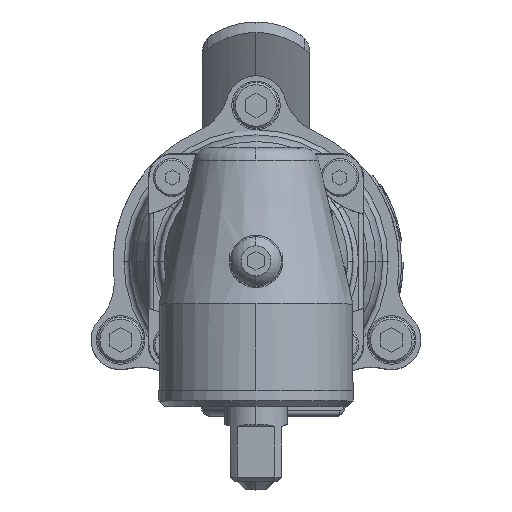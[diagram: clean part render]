
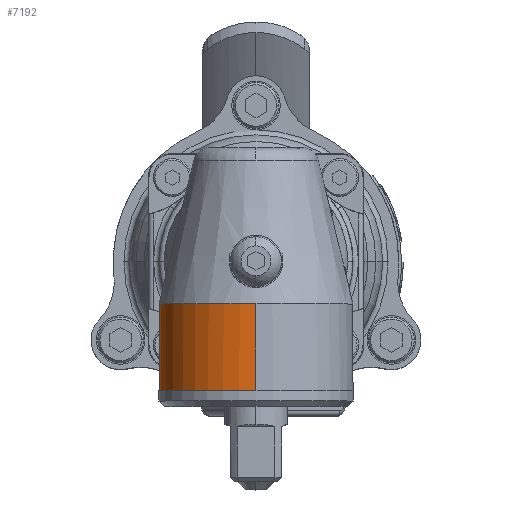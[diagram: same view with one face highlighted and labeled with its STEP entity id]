
A CAD part, top view. The second image highlights one B-rep face of the part: STEP entity #7192.
In plain terms, the highlighted cylindrical face has radius 18 mm (diameter 36 mm), a partial arc.
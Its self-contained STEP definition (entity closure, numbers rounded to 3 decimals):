
#7138 = EDGE_CURVE ( 'NONE', #7208, #7221, #22955, .T. ) ;
#7179 = ORIENTED_EDGE ( 'NONE', *, *, #7180, .T. ) ;
#7180 = EDGE_CURVE ( 'NONE', #7206, #7196, #23312, .T. ) ;
#7192 = ADVANCED_FACE ( 'NONE', ( #27833 ), #27888, .T. ) ;
#7193 = EDGE_LOOP ( 'NONE', ( #7194, #7197, #7198, #7201, #7204, #7179 ) ) ;
#7194 = ORIENTED_EDGE ( 'NONE', *, *, #7195, .T. ) ;
#7195 = EDGE_CURVE ( 'NONE', #7196, #7208, #27890, .T. ) ;
#7196 = VERTEX_POINT ( 'NONE', #27869 ) ;
#7197 = ORIENTED_EDGE ( 'NONE', *, *, #7138, .T. ) ;
#7198 = ORIENTED_EDGE ( 'NONE', *, *, #7199, .F. ) ;
#7199 = EDGE_CURVE ( 'NONE', #7200, #7221, #27864, .T. ) ;
#7200 = VERTEX_POINT ( 'NONE', #27856 ) ;
#7201 = ORIENTED_EDGE ( 'NONE', *, *, #7202, .T. ) ;
#7202 = EDGE_CURVE ( 'NONE', #7200, #7203, #27851, .T. ) ;
#7203 = VERTEX_POINT ( 'NONE', #27849 ) ;
#7204 = ORIENTED_EDGE ( 'NONE', *, *, #7205, .T. ) ;
#7205 = EDGE_CURVE ( 'NONE', #7203, #7206, #27982, .T. ) ;
#7206 = VERTEX_POINT ( 'NONE', #27980 ) ;
#7208 = VERTEX_POINT ( 'NONE', #27951 ) ;
#7221 = VERTEX_POINT ( 'NONE', #28002 ) ;
#22950 = DIRECTION ( 'NONE',  ( 0., 1., 0. ) ) ;
#22952 = VECTOR ( 'NONE', #22950, 1000. ) ;
#22954 = CARTESIAN_POINT ( 'NONE',  ( 0., 47.096, 18. ) ) ;
#22955 = LINE ( 'NONE', #22954, #22952 ) ;
#23312 = B_SPLINE_CURVE_WITH_KNOTS ( 'NONE', 3,
 ( #23398, #23396, #23395, #23394, #23393, #23392, #23390, #23388, #23384, #23382, #23380, #23378, #23377, #23376, #23375, #23373, #23371, #23369, #23367, #23366, #23365, #23363, #23361, #23359, #23357, #23356, #23355, #23353 ),
 .UNSPECIFIED., .F., .F.,
 ( 4, 2, 2, 2, 2, 2, 2, 2, 2, 2, 2, 2, 2, 4 ),
 ( 0., 0.002, 0.004, 0.006, 0.007, 0.008, 0.009, 0.009, 0.01, 0.011, 0.012, 0.013, 0.014, 0.015 ),
 .UNSPECIFIED. ) ;
#23353 = CARTESIAN_POINT ( 'NONE',  ( -14.232, -24., -11.02 ) ) ;
#23355 = CARTESIAN_POINT ( 'NONE',  ( -14.409, -23.868, -10.792 ) ) ;
#23356 = CARTESIAN_POINT ( 'NONE',  ( -14.572, -23.714, -10.57 ) ) ;
#23357 = CARTESIAN_POINT ( 'NONE',  ( -14.874, -23.36, -10.14 ) ) ;
#23359 = CARTESIAN_POINT ( 'NONE',  ( -15.014, -23.159, -9.931 ) ) ;
#23361 = CARTESIAN_POINT ( 'NONE',  ( -15.265, -22.725, -9.541 ) ) ;
#23363 = CARTESIAN_POINT ( 'NONE',  ( -15.377, -22.491, -9.359 ) ) ;
#23365 = CARTESIAN_POINT ( 'NONE',  ( -15.576, -21.991, -9.024 ) ) ;
#23366 = CARTESIAN_POINT ( 'NONE',  ( -15.664, -21.723, -8.87 ) ) ;
#23367 = CARTESIAN_POINT ( 'NONE',  ( -15.814, -21.167, -8.6 ) ) ;
#23369 = CARTESIAN_POINT ( 'NONE',  ( -15.876, -20.879, -8.484 ) ) ;
#23371 = CARTESIAN_POINT ( 'NONE',  ( -15.978, -20.283, -8.29 ) ) ;
#23373 = CARTESIAN_POINT ( 'NONE',  ( -16.017, -19.973, -8.213 ) ) ;
#23375 = CARTESIAN_POINT ( 'NONE',  ( -16.073, -19.349, -8.104 ) ) ;
#23376 = CARTESIAN_POINT ( 'NONE',  ( -16.089, -19.035, -8.071 ) ) ;
#23377 = CARTESIAN_POINT ( 'NONE',  ( -16.099, -18.402, -8.051 ) ) ;
#23378 = CARTESIAN_POINT ( 'NONE',  ( -16.093, -18.081, -8.063 ) ) ;
#23380 = CARTESIAN_POINT ( 'NONE',  ( -16.058, -17.449, -8.132 ) ) ;
#23382 = CARTESIAN_POINT ( 'NONE',  ( -16.03, -17.14, -8.189 ) ) ;
#23384 = CARTESIAN_POINT ( 'NONE',  ( -15.95, -16.532, -8.344 ) ) ;
#23388 = CARTESIAN_POINT ( 'NONE',  ( -15.898, -16.232, -8.443 ) ) ;
#23390 = CARTESIAN_POINT ( 'NONE',  ( -15.705, -15.364, -8.799 ) ) ;
#23392 = CARTESIAN_POINT ( 'NONE',  ( -15.533, -14.838, -9.106 ) ) ;
#23393 = CARTESIAN_POINT ( 'NONE',  ( -15.075, -13.898, -9.845 ) ) ;
#23394 = CARTESIAN_POINT ( 'NONE',  ( -14.801, -13.505, -10.259 ) ) ;
#23395 = CARTESIAN_POINT ( 'NONE',  ( -14.133, -12.886, -11.161 ) ) ;
#23396 = CARTESIAN_POINT ( 'NONE',  ( -13.758, -12.676, -11.624 ) ) ;
#23398 = CARTESIAN_POINT ( 'NONE',  ( -13.333, -12.572, -12.093 ) ) ;
#27833 = FACE_OUTER_BOUND ( 'NONE', #7193, .T. ) ;
#27839 = CARTESIAN_POINT ( 'NONE',  ( -15.982, -8., -8.282 ) ) ;
#27841 = CARTESIAN_POINT ( 'NONE',  ( -16.025, -8., -8.197 ) ) ;
#27849 = CARTESIAN_POINT ( 'NONE',  ( -15.777, -7.822, -8.664 ) ) ;
#27851 = B_SPLINE_CURVE_WITH_KNOTS ( 'NONE', 3,
 ( #27841, #27839, #27991, #27989, #27987, #27985 ),
 .UNSPECIFIED., .F., .F.,
 ( 4, 2, 4 ),
 ( 0., 0., 0.001 ),
 .UNSPECIFIED. ) ;
#27856 = CARTESIAN_POINT ( 'NONE',  ( -16.025, -8., -8.197 ) ) ;
#27858 = DIRECTION ( 'NONE',  ( 0., 0., 1. ) ) ;
#27860 = DIRECTION ( 'NONE',  ( 0., 1., 0. ) ) ;
#27862 = CARTESIAN_POINT ( 'NONE',  ( 0., -8., 0. ) ) ;
#27863 = AXIS2_PLACEMENT_3D ( 'NONE', #27862, #27860, #27858 ) ;
#27864 = CIRCLE ( 'NONE', #27863, 18. ) ;
#27869 = CARTESIAN_POINT ( 'NONE',  ( -14.232, -24., -11.02 ) ) ;
#27871 = DIRECTION ( 'NONE',  ( 0., 0., 1. ) ) ;
#27873 = DIRECTION ( 'NONE',  ( 0., 1., 0. ) ) ;
#27875 = CARTESIAN_POINT ( 'NONE',  ( 0., -24., 0. ) ) ;
#27877 = AXIS2_PLACEMENT_3D ( 'NONE', #27875, #27873, #27871 ) ;
#27883 = DIRECTION ( 'NONE',  ( 0., 0., 1. ) ) ;
#27884 = DIRECTION ( 'NONE',  ( 0., 1., 0. ) ) ;
#27886 = AXIS2_PLACEMENT_3D ( 'NONE', #27895, #27884, #27883 ) ;
#27888 = CYLINDRICAL_SURFACE ( 'NONE', #27886, 18. ) ;
#27890 = CIRCLE ( 'NONE', #27877, 18. ) ;
#27895 = CARTESIAN_POINT ( 'NONE',  ( 0., 47.096, 0. ) ) ;
#27951 = CARTESIAN_POINT ( 'NONE',  ( 0., -24., 18. ) ) ;
#27962 = CARTESIAN_POINT ( 'NONE',  ( -13.333, -12.572, -12.093 ) ) ;
#27964 = CARTESIAN_POINT ( 'NONE',  ( -13.841, -11.839, -11.533 ) ) ;
#27966 = CARTESIAN_POINT ( 'NONE',  ( -14.295, -11.077, -10.961 ) ) ;
#27968 = CARTESIAN_POINT ( 'NONE',  ( -15.108, -9.495, -9.81 ) ) ;
#27970 = CARTESIAN_POINT ( 'NONE',  ( -15.468, -8.672, -9.229 ) ) ;
#27972 = CARTESIAN_POINT ( 'NONE',  ( -15.777, -7.822, -8.664 ) ) ;
#27980 = CARTESIAN_POINT ( 'NONE',  ( -13.333, -12.572, -12.093 ) ) ;
#27982 = B_SPLINE_CURVE_WITH_KNOTS ( 'NONE', 3,
 ( #27972, #27970, #27968, #27966, #27964, #27962 ),
 .UNSPECIFIED., .F., .F.,
 ( 4, 2, 4 ),
 ( 0., 0.003, 0.006 ),
 .UNSPECIFIED. ) ;
#27985 = CARTESIAN_POINT ( 'NONE',  ( -15.777, -7.822, -8.664 ) ) ;
#27987 = CARTESIAN_POINT ( 'NONE',  ( -15.809, -7.893, -8.607 ) ) ;
#27989 = CARTESIAN_POINT ( 'NONE',  ( -15.851, -7.938, -8.53 ) ) ;
#27991 = CARTESIAN_POINT ( 'NONE',  ( -15.937, -7.991, -8.368 ) ) ;
#28002 = CARTESIAN_POINT ( 'NONE',  ( 0., -8., 18. ) ) ;
